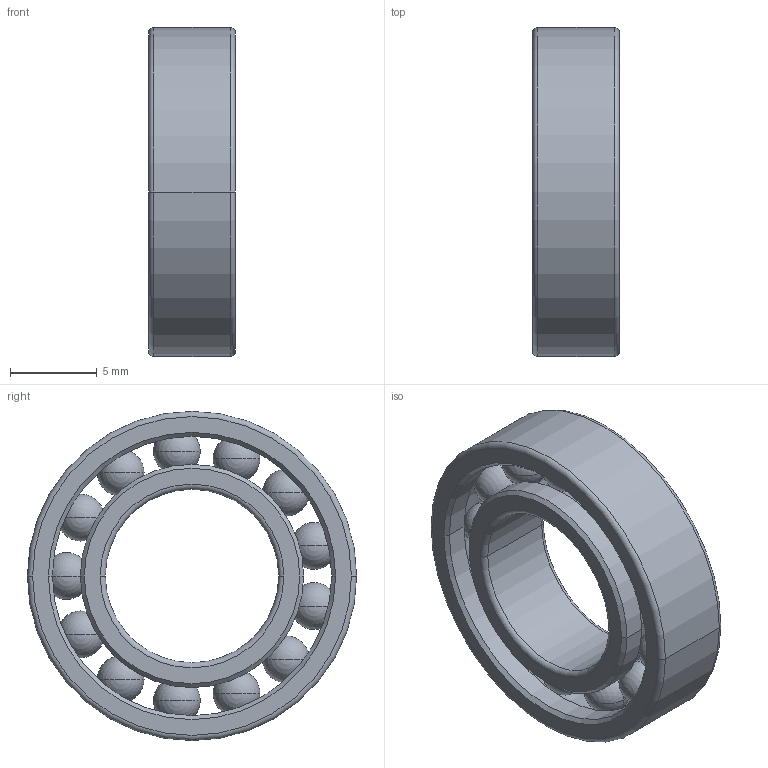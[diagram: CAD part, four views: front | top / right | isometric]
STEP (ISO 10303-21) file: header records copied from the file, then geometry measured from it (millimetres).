
FILE_DESCRIPTION(/* description */ ('VariCAD 2010-3.03 AP-214'),/* implementation_level */ '2;1');
FILE_NAME(/* name */ '0353-80-41',/* time_stamp */ '2011-06-29T22:06:09-06:00',/* author */ (''),/* organization */ (''),/* preprocessor_version */ 'ST-DEVELOPER v12',/* originating_system */ 'VariCAD 2010-3.03; kernel version (20100102)',/* authorisation */ '');
FILE_SCHEMA (('AUTOMOTIVE_DESIGN'));
Length unit declared in the file: millimetre
Products named in the file (1): Part
Bounding box: 5 x 19 x 19 mm (x, y, z)
Volume: 707.5 mm3; surface area: 1455 mm2
Topology: 15 solids, 15 shells, 88 faces, 202 edges, 92 vertices
Faces by surface type: sphere 52, torus 12, cylinder 12, cone 8, plane 4
Entity records: 2938 total; most frequent: DIRECTION 488, CARTESIAN_POINT 346, ORIENTED_EDGE 300, AXIS2_PLACEMENT_3D 234, EDGE_CURVE 150, CIRCLE 130, PRESENTATION_STYLE_ASSIGNMENT 103, SURFACE_STYLE_USAGE 103
